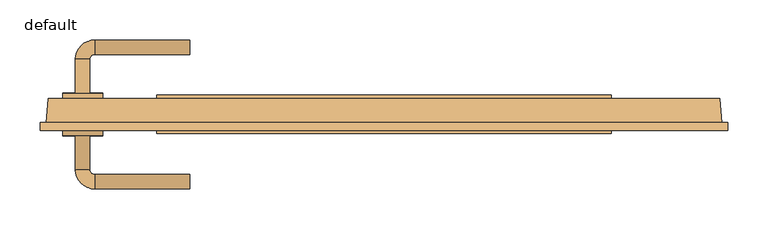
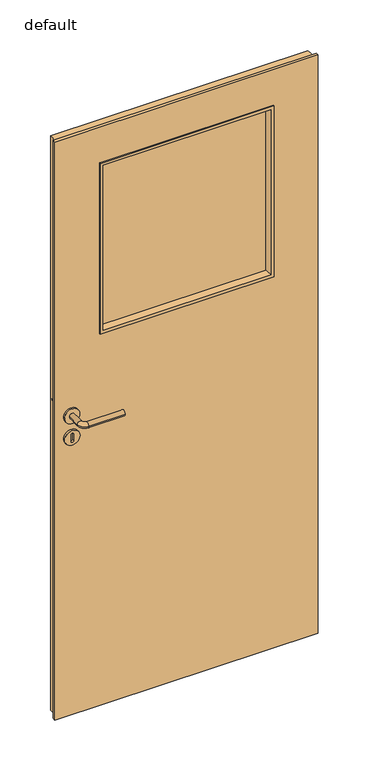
"""IFC4 building model written with IfcOpenShell, lengths in millimetres: door geometry, Panel_FIN_40D_Rebated_Glazed_05 : default."""

from ifc_helpers import new_model, si_unit, point, frame, frame_2d, origin, place, context, project, spatial, polyline, circle_curve, ellipse_curve, trimmed, segment, composite_curve, outline, extrude, faceted_brep, source, transform, mapped, element, save
from ifc_brep_helpers import plane_surface, cylinder_surface, revolved_surface, advanced_brep


def default_b7d49472(model_context):
    return source(origin(), model_context, "Body", "SolidModel", [
        extrude(outline(composite_curve([segment(trimmed(circle_curve(frame_2d((970.5, -376.0)), 25.0), [point((970.5, -351.0))], [point((970.5, -401.0))], False, "CARTESIAN"), True, "CONTINUOUS"), segment(trimmed(circle_curve(frame_2d((970.5, -376.0)), 25.0), [point((970.5, -401.0))], [point((970.5, -351.0))], False, "CARTESIAN"), True, "CONTINUOUS")], self_intersect=False), holes=[composite_curve([segment(polyline([(959.256589, -380.0), (981.743411, -380.0)]), True, "CONTINUOUS"), segment(trimmed(circle_curve(frame_2d((981.743411, -376.0)), 4.0), [point((981.743411, -380.0))], [point((981.743411, -372.0))], True, "CARTESIAN"), True, "CONTINUOUS"), segment(polyline([(981.743411, -372.0), (959.256589, -372.0)]), True, "CONTINUOUS"), segment(trimmed(circle_curve(frame_2d((959.256589, -376.0)), 4.0), [point((959.256589, -372.0))], [point((959.256589, -380.0))], True, "CARTESIAN"), True, "CONTINUOUS")], self_intersect=False)]), frame((0.0, 40.0, 0.0), z_axis=(0.0, 1.0, 0.0), x_axis=(0.0, 0.0, 1.0)), (0.0, 0.0, 1.0), 7.0),
        extrude(outline(composite_curve([segment(trimmed(circle_curve(frame_2d((970.5, -376.0)), 25.0), [point((970.5, -351.0))], [point((970.5, -401.0))], False, "CARTESIAN"), True, "CONTINUOUS"), segment(trimmed(circle_curve(frame_2d((970.5, -376.0)), 25.0), [point((970.5, -401.0))], [point((970.5, -351.0))], False, "CARTESIAN"), True, "CONTINUOUS")], self_intersect=False), holes=[composite_curve([segment(trimmed(circle_curve(frame_2d((981.743411, -376.0)), 4.0), [point((981.743411, -380.0))], [point((981.743411, -372.0))], True, "CARTESIAN"), True, "CONTINUOUS"), segment(polyline([(981.743411, -372.0), (959.256589, -372.0)]), True, "CONTINUOUS"), segment(trimmed(circle_curve(frame_2d((959.256589, -376.0)), 4.0), [point((959.256589, -372.0))], [point((959.256589, -380.0))], True, "CARTESIAN"), True, "CONTINUOUS"), segment(polyline([(959.256589, -380.0), (981.743411, -380.0)]), True, "CONTINUOUS")], self_intersect=False)]), frame((0.0, -7.0, 0.0), z_axis=(0.0, 1.0, 0.0), x_axis=(0.0, 0.0, 1.0)), (0.0, 0.0, 1.0), 7.0),
        advanced_brep(
        [(-401.0, 46.0, 1044.5), (-351.0, 46.0, 1044.5), (-367.0346073, 46.0, 1044.5), (-384.9653927, 46.0, 1044.5), (-401.0, 40.0, 1044.5), (-351.0, 40.0, 1044.5), (-367.0346073, 88.9627146, 1044.5), (-384.9653927, 88.9627146, 1044.5), (-361.0, 94.9973219, 1044.5), (-361.0, 112.9281073, 1044.5), (-242.0, 94.9973219, 1044.5), (-242.0, 112.9281073, 1044.5)],
        [
            (0, 1, circle_curve(frame((-376.0, 46.0, 1044.5), z_axis=(0.0, 1.0, 0.0), x_axis=(1.0, 0.0, 0.0)), 25.0)),
            (1, 0, circle_curve(frame((-376.0, 46.0, 1044.5), z_axis=(0.0, 1.0, 0.0), x_axis=(1.0, 0.0, 0.0)), 25.0)),
            (2, 3, circle_curve(frame((-376.0, 46.0, 1044.5), z_axis=(0.0, -1.0, 0.0), x_axis=(-1.0, 0.0, 0.0)), 8.9653927)),
            (3, 2, circle_curve(frame((-376.0, 46.0, 1044.5), z_axis=(0.0, -1.0, 0.0), x_axis=(-1.0, 0.0, 0.0)), 8.9653927)),
            (4, 5, circle_curve(frame((-376.0, 40.0, 1044.5), z_axis=(0.0, -1.0, 0.0), x_axis=(1.0, 0.0, 0.0)), 25.0)),
            (5, 4, circle_curve(frame((-376.0, 40.0, 1044.5), z_axis=(0.0, -1.0, 0.0), x_axis=(1.0, 0.0, 0.0)), 25.0)),
            (1, 5),
            (4, 0),
            (2, 6),
            (6, 7, circle_curve(frame((-376.0, 88.9627146, 1044.5), z_axis=(0.0, -1.0, 0.0), x_axis=(-1.0, 0.0, 0.0)), 8.9653927)),
            (7, 3),
            (7, 6, circle_curve(frame((-376.0, 88.9627146, 1044.5), z_axis=(0.0, -1.0, 0.0), x_axis=(-1.0, 0.0, 0.0)), 8.9653927)),
            (6, 8, circle_curve(frame((-361.0, 88.9627146, 1044.5), z_axis=(0.0, 0.0, -1.0), x_axis=(-1.0, 0.0, 0.0)), 6.0346073)),
            (8, 9, circle_curve(frame((-361.0, 103.9627146, 1044.5), z_axis=(-1.0, 0.0, 0.0), x_axis=(0.0, 1.0, 0.0)), 8.9653927)),
            (9, 7, circle_curve(frame((-361.0, 88.9627146, 1044.5), z_axis=(0.0, 0.0, 1.0), x_axis=(-1.0, 0.0, 0.0)), 23.9653927)),
            (9, 8, circle_curve(frame((-361.0, 103.9627146, 1044.5), z_axis=(-1.0, 0.0, 0.0), x_axis=(0.0, 1.0, 0.0)), 8.9653927)),
            (10, 11, circle_curve(frame((-242.0, 103.9627146, 1044.5), z_axis=(1.0, 0.0, 0.0), x_axis=(0.0, 1.0, 0.0)), 8.9653927)),
            (11, 10, circle_curve(frame((-242.0, 103.9627146, 1044.5), z_axis=(1.0, 0.0, 0.0), x_axis=(0.0, 1.0, 0.0)), 8.9653927)),
            (8, 10),
            (11, 9),
        ],
        [
            plane_surface(frame((-351.0, 46.0, 1044.5), z_axis=(0.0, 1.0, 0.0), x_axis=(0.0, 0.0, -1.0))),
            plane_surface(frame((-351.0, 40.0, 1044.5), z_axis=(0.0, -1.0, 0.0), x_axis=(0.0, 0.0, 1.0))),
            cylinder_surface(frame((-376.0, 46.0, 1044.5), z_axis=(0.0, -1.0, 0.0), x_axis=(1.0, 0.0, 0.0)), 25.0),
            cylinder_surface(frame((-376.0, 46.0, 1044.5), z_axis=(0.0, -1.0, 0.0), x_axis=(-1.0, 0.0, 0.0)), 8.9653927),
            revolved_surface(trimmed(ellipse_curve(frame((-376.0, 88.9627146, 1044.5), z_axis=(0.0, -1.0, 0.0), x_axis=(-1.0, 0.0, 0.0)), 8.9653927, 8.9653927), [point((-367.0346073, 88.9627146, 1044.5))], [point((-384.9653927, 88.9627146, 1044.5))], True, "CARTESIAN"), (-361.0, 88.9627146, 1044.5), (0.0, 0.0, -1.0)),
            revolved_surface(trimmed(ellipse_curve(frame((-376.0, 88.9627146, 1044.5), z_axis=(0.0, -1.0, 0.0), x_axis=(-1.0, 0.0, 0.0)), 8.9653927, 8.9653927), [point((-384.9653927, 88.9627146, 1044.5))], [point((-367.0346073, 88.9627146, 1044.5))], True, "CARTESIAN"), (-361.0, 88.9627146, 1044.5), (0.0, 0.0, -1.0)),
            plane_surface(frame((-242.0, 103.9627146, 1044.5), z_axis=(1.0, 0.0, 0.0), x_axis=(0.0, 0.0, 1.0))),
            cylinder_surface(frame((-361.0, 103.9627146, 1044.5), z_axis=(-1.0, 0.0, 0.0), x_axis=(0.0, 1.0, 0.0)), 8.9653927),
        ],
        [
            (0, [[1, 2], [3, 4]]),
            (1, [[5, 6]]),
            (2, [[-2, 7, -5, 8]]),
            (2, [[-1, -8, -6, -7]]),
            (3, [[9, 10, 11, -3]]),
            (3, [[-9, -4, -11, 12]]),
            (4, [[-10, 13, 14, 15]]),
            (5, [[-12, -15, 16, -13]]),
            (6, [[17, 18]]),
            (7, [[-14, 19, -18, 20]]),
            (7, [[-16, -20, -17, -19]]),
        ],
    ),
        advanced_brep(
        [(-401.0, -6.0, 1044.5), (-351.0, -6.0, 1044.5), (-367.0346073, -6.0, 1044.5), (-384.9653927, -6.0, 1044.5), (-401.0, 0.0, 1044.5), (-351.0, 0.0, 1044.5), (-384.9653927, -48.9627146, 1044.5), (-367.0346073, -48.9627146, 1044.5), (-361.0, -72.9281073, 1044.5), (-361.0, -54.9973219, 1044.5), (-242.0, -54.9973219, 1044.5), (-242.0, -72.9281073, 1044.5)],
        [
            (0, 1, circle_curve(frame((-376.0, -6.0, 1044.5), z_axis=(0.0, -1.0, 0.0), x_axis=(1.0, 0.0, 0.0)), 25.0)),
            (1, 0, circle_curve(frame((-376.0, -6.0, 1044.5), z_axis=(0.0, -1.0, 0.0), x_axis=(1.0, 0.0, 0.0)), 25.0)),
            (2, 3, circle_curve(frame((-376.0, -6.0, 1044.5), z_axis=(0.0, 1.0, 0.0), x_axis=(-1.0, 0.0, 0.0)), 8.9653927)),
            (3, 2, circle_curve(frame((-376.0, -6.0, 1044.5), z_axis=(0.0, 1.0, 0.0), x_axis=(-1.0, 0.0, 0.0)), 8.9653927)),
            (4, 5, circle_curve(frame((-376.0, 0.0, 1044.5), z_axis=(0.0, 1.0, 0.0), x_axis=(1.0, 0.0, 0.0)), 25.0)),
            (5, 4, circle_curve(frame((-376.0, 0.0, 1044.5), z_axis=(0.0, 1.0, 0.0), x_axis=(1.0, 0.0, 0.0)), 25.0)),
            (0, 4),
            (5, 1),
            (3, 6),
            (6, 7, circle_curve(frame((-376.0, -48.9627146, 1044.5), z_axis=(0.0, 1.0, 0.0), x_axis=(-1.0, 0.0, 0.0)), 8.9653927)),
            (7, 2),
            (7, 6, circle_curve(frame((-376.0, -48.9627146, 1044.5), z_axis=(0.0, 1.0, 0.0), x_axis=(-1.0, 0.0, 0.0)), 8.9653927)),
            (6, 8, circle_curve(frame((-361.0, -48.9627146, 1044.5), z_axis=(0.0, 0.0, 1.0), x_axis=(-1.0, 0.0, 0.0)), 23.9653927)),
            (8, 9, circle_curve(frame((-361.0, -63.9627146, 1044.5), z_axis=(-1.0, 0.0, 0.0), x_axis=(0.0, -1.0, 0.0)), 8.9653927)),
            (9, 7, circle_curve(frame((-361.0, -48.9627146, 1044.5), z_axis=(0.0, 0.0, -1.0), x_axis=(-1.0, 0.0, 0.0)), 6.0346073)),
            (9, 8, circle_curve(frame((-361.0, -63.9627146, 1044.5), z_axis=(-1.0, 0.0, 0.0), x_axis=(0.0, -1.0, 0.0)), 8.9653927)),
            (10, 11, circle_curve(frame((-242.0, -63.9627146, 1044.5), z_axis=(1.0, 0.0, 0.0), x_axis=(0.0, -1.0, 0.0)), 8.9653927)),
            (11, 10, circle_curve(frame((-242.0, -63.9627146, 1044.5), z_axis=(1.0, 0.0, 0.0), x_axis=(0.0, -1.0, 0.0)), 8.9653927)),
            (8, 11),
            (10, 9),
        ],
        [
            plane_surface(frame((-351.0, -6.0, 1044.5), z_axis=(0.0, -1.0, 0.0), x_axis=(0.0, 0.0, -1.0))),
            plane_surface(frame((-351.0, 0.0, 1044.5), z_axis=(0.0, 1.0, 0.0), x_axis=(0.0, 0.0, 1.0))),
            cylinder_surface(frame((-376.0, -6.0, 1044.5), z_axis=(0.0, 1.0, 0.0), x_axis=(1.0, 0.0, 0.0)), 25.0),
            cylinder_surface(frame((-376.0, -6.0, 1044.5), z_axis=(0.0, 1.0, 0.0), x_axis=(-1.0, 0.0, 0.0)), 8.9653927),
            revolved_surface(trimmed(ellipse_curve(frame((-376.0, -48.9627146, 1044.5), z_axis=(0.0, -1.0, 0.0), x_axis=(-1.0, 0.0, 0.0)), 8.9653927, 8.9653927), [point((-367.0346073, -48.9627146, 1044.5))], [point((-384.9653927, -48.9627146, 1044.5))], True, "CARTESIAN"), (-361.0, -48.9627146, 1044.5), (0.0, 0.0, -1.0)),
            revolved_surface(trimmed(ellipse_curve(frame((-376.0, -48.9627146, 1044.5), z_axis=(0.0, -1.0, 0.0), x_axis=(-1.0, 0.0, 0.0)), 8.9653927, 8.9653927), [point((-384.9653927, -48.9627146, 1044.5))], [point((-367.0346073, -48.9627146, 1044.5))], True, "CARTESIAN"), (-361.0, -48.9627146, 1044.5), (0.0, 0.0, -1.0)),
            plane_surface(frame((-242.0, -63.9627146, 1044.5), z_axis=(1.0, 0.0, 0.0), x_axis=(0.0, 0.0, 1.0))),
            cylinder_surface(frame((-361.0, -63.9627146, 1044.5), z_axis=(-1.0, 0.0, 0.0), x_axis=(0.0, -1.0, 0.0)), 8.9653927),
        ],
        [
            (0, [[1, 2], [3, 4]]),
            (1, [[5, 6]]),
            (2, [[7, -6, 8, -1]]),
            (2, [[-8, -5, -7, -2]]),
            (3, [[-4, 9, 10, 11]]),
            (3, [[12, -9, -3, -11]]),
            (4, [[13, 14, 15, -10]]),
            (5, [[-15, 16, -13, -12]]),
            (6, [[17, 18]]),
            (7, [[19, -17, 20, -14]]),
            (7, [[-20, -18, -19, -16]]),
        ],
    ),
        faceted_brep([(418.9021956, 40.0, 18.0), (-418.9021956, 40.0, 18.0), (-418.9021956, 40.0, 1997.0), (418.9021956, 40.0, 1997.0), (-279.0, 40.0, 1297.0), (279.0, 40.0, 1297.0), (279.0, 40.0, 1876.0), (-279.0, 40.0, 1876.0), (421.0, 10.0, 1997.0), (421.0, 10.0, 18.0), (-421.0, 10.0, 18.0), (-421.0, 10.0, 1997.0), (-429.0, 0.0, 2003.0), (-429.0, 0.0, 12.0), (429.0, 0.0, 12.0), (429.0, 0.0, 2003.0), (-279.0, 0.0, 1876.0), (279.0, 0.0, 1876.0), (279.0, 0.0, 1297.0), (-279.0, 0.0, 1297.0), (429.0, 10.0, 12.0), (429.0, 10.0, 2003.0), (-429.0, 10.0, 12.0), (-429.0, 10.0, 2003.0)], [[[0, 1, 2, 3], [4, 5, 6, 7]], [[3, 8, 9, 0]], [[1, 10, 11, 2]], [[10, 1, 0, 9]], [[12, 13, 14, 15], [16, 17, 18, 19]], [[14, 20, 21, 15]], [[13, 22, 20, 14]], [[12, 23, 22, 13]], [[22, 23, 21, 20], [10, 9, 8, 11]], [[15, 21, 23, 12]], [[8, 3, 2, 11]], [[16, 19, 4, 7]], [[19, 18, 5, 4]], [[18, 17, 6, 5]], [[7, 6, 17, 16]]]),
        faceted_brep([(-273.5, -4.0, 1870.5), (-273.5, -4.0, 1302.5), (-269.0, 17.0, 1307.0), (-269.0, 17.0, 1866.0), (-279.0, 16.2, 1297.0), (-279.0, 16.2, 1876.0), (-279.0, 0.0, 1297.0), (-279.0, 0.0, 1876.0), (-283.5, 0.0, 1880.5), (-283.5, 0.0, 1292.5), (-283.5, -4.0, 1292.5), (-283.5, -4.0, 1880.5), (273.5, -4.0, 1302.5), (269.0, 17.0, 1307.0), (279.0, 16.2, 1297.0), (279.0, 0.0, 1297.0), (283.5, 0.0, 1292.5), (283.5, -4.0, 1292.5), (273.5, -4.0, 1870.5), (269.0, 17.0, 1866.0), (279.0, 16.2, 1876.0), (279.0, 0.0, 1876.0), (283.5, 0.0, 1880.5), (283.5, -4.0, 1880.5)], [[[0, 1, 2, 3]], [[3, 2, 4, 5]], [[5, 4, 6, 7]], [[8, 9, 10, 11]], [[1, 12, 13, 2]], [[2, 13, 14, 4]], [[4, 14, 15, 6]], [[9, 16, 17, 10]], [[12, 18, 19, 13]], [[13, 19, 20, 14]], [[14, 20, 21, 15]], [[16, 22, 23, 17]], [[18, 0, 3, 19]], [[19, 3, 5, 20]], [[20, 5, 7, 21]], [[9, 8, 22, 16], [7, 6, 15, 21]], [[22, 8, 11, 23]], [[11, 10, 17, 23], [1, 0, 18, 12]]]),
        faceted_brep([(273.5, 44.0, 1870.5), (273.5, 44.0, 1302.5), (269.0, 23.0, 1307.0), (269.0, 23.0, 1866.0), (279.0, 23.8, 1297.0), (279.0, 23.8, 1876.0), (279.0, 40.0, 1297.0), (279.0, 40.0, 1876.0), (283.5, 40.0, 1880.5), (283.5, 40.0, 1292.5), (283.5, 44.0, 1292.5), (283.5, 44.0, 1880.5), (-273.5, 44.0, 1302.5), (-269.0, 23.0, 1307.0), (-279.0, 23.8, 1297.0), (-279.0, 40.0, 1297.0), (-283.5, 40.0, 1292.5), (-283.5, 44.0, 1292.5), (-273.5, 44.0, 1870.5), (-269.0, 23.0, 1866.0), (-279.0, 23.8, 1876.0), (-279.0, 40.0, 1876.0), (-283.5, 40.0, 1880.5), (-283.5, 44.0, 1880.5)], [[[0, 1, 2, 3]], [[3, 2, 4, 5]], [[5, 4, 6, 7]], [[8, 9, 10, 11]], [[1, 12, 13, 2]], [[2, 13, 14, 4]], [[4, 14, 15, 6]], [[9, 16, 17, 10]], [[12, 18, 19, 13]], [[13, 19, 20, 14]], [[14, 20, 21, 15]], [[16, 22, 23, 17]], [[18, 0, 3, 19]], [[19, 3, 5, 20]], [[20, 5, 7, 21]], [[9, 8, 22, 16], [7, 6, 15, 21]], [[22, 8, 11, 23]], [[11, 10, 17, 23], [1, 0, 18, 12]]]),
        extrude(outline(polyline([(-279.0, 17.0), (-279.0, 23.0), (279.0, 23.0), (279.0, 17.0), (-279.0, 17.0)])), frame((0.0, 0.0, 1297.0), z_axis=(0.0, 0.0, 1.0), x_axis=(1.0, 0.0, 0.0)), (0.0, 0.0, 1.0), 579.0),
    ])


if __name__ == "__main__":
    model = new_model("IFC4")
    model_context = context("Model", 3, world=origin())
    ifc_project = project(units=[si_unit("LENGTHUNIT", "METRE", prefix="MILLI")], contexts=[model_context])
    site = spatial("IfcSite", under=ifc_project)
    building = spatial("IfcBuilding", under=site)
    placement = place(None, origin())
    default_shape = default_b7d49472(model_context)
    element("IfcDoor", 1, ObjectType="Panel_FIN_40D_Rebated_Glazed_05 : default", at=placement, inside=building, context=model_context, shape_type="MappedRepresentation", body=[
        mapped(default_shape, transform((0.0, 0.0, 0.0), x_axis=(1.0, 0.0, 0.0), y_axis=(0.0, 1.0, 0.0), z_axis=(0.0, 0.0, 1.0))),
    ])
    save(model, "model.ifc")
